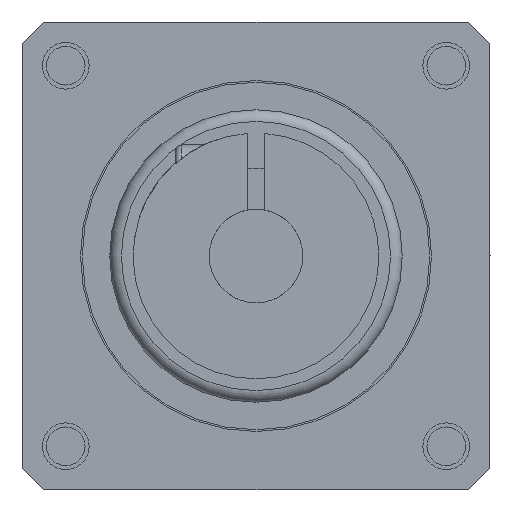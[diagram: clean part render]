
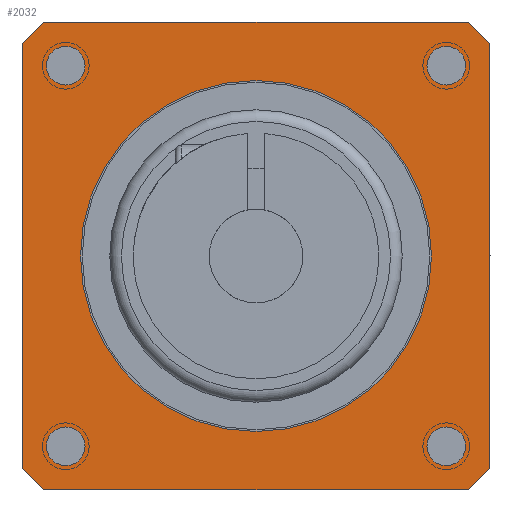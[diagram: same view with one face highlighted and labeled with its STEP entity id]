
A CAD part, left-side view. The second image highlights one B-rep face of the part: STEP entity #2032.
In plain terms, the highlighted planar face has unit normal (-1, 0, 0).
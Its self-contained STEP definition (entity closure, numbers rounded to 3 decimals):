
#185=LINE('',#3430,#346);
#188=LINE('',#3438,#349);
#191=LINE('',#3448,#352);
#194=LINE('',#3455,#355);
#346=VECTOR('',#2606,36.277);
#349=VECTOR('',#2615,36.277);
#352=VECTOR('',#2626,36.277);
#355=VECTOR('',#2635,36.277);
#442=FACE_BOUND('',#662,.T.);
#443=FACE_BOUND('',#663,.T.);
#444=FACE_BOUND('',#664,.T.);
#445=FACE_BOUND('',#665,.T.);
#446=FACE_BOUND('',#666,.T.);
#514=FACE_OUTER_BOUND('',#661,.T.);
#661=EDGE_LOOP('',(#1556,#1557,#1558,#1559,#1560,#1561,#1562,#1563));
#662=EDGE_LOOP('',(#1564));
#663=EDGE_LOOP('',(#1565));
#664=EDGE_LOOP('',(#1566));
#665=EDGE_LOOP('',(#1567));
#666=EDGE_LOOP('',(#1568));
#770=CIRCLE('',#2205,27.);
#771=CIRCLE('',#2208,27.);
#773=CIRCLE('',#2212,27.);
#774=CIRCLE('',#2215,27.);
#775=CIRCLE('',#2218,15.);
#776=CIRCLE('',#2219,1.65);
#777=CIRCLE('',#2220,1.65);
#778=CIRCLE('',#2221,1.65);
#779=CIRCLE('',#2222,1.65);
#926=VERTEX_POINT('',#3423);
#927=VERTEX_POINT('',#3425);
#928=VERTEX_POINT('',#3429);
#929=VERTEX_POINT('',#3433);
#930=VERTEX_POINT('',#3437);
#932=VERTEX_POINT('',#3443);
#933=VERTEX_POINT('',#3447);
#934=VERTEX_POINT('',#3451);
#935=VERTEX_POINT('',#3457);
#936=VERTEX_POINT('',#3459);
#937=VERTEX_POINT('',#3461);
#938=VERTEX_POINT('',#3463);
#939=VERTEX_POINT('',#3465);
#1143=EDGE_CURVE('',#927,#926,#770,.T.);
#1145=EDGE_CURVE('',#928,#927,#185,.T.);
#1147=EDGE_CURVE('',#929,#928,#771,.T.);
#1149=EDGE_CURVE('',#930,#929,#188,.T.);
#1152=EDGE_CURVE('',#932,#930,#773,.T.);
#1154=EDGE_CURVE('',#933,#932,#191,.T.);
#1156=EDGE_CURVE('',#934,#933,#774,.T.);
#1158=EDGE_CURVE('',#926,#934,#194,.T.);
#1159=EDGE_CURVE('',#935,#935,#775,.T.);
#1160=EDGE_CURVE('',#936,#936,#776,.T.);
#1161=EDGE_CURVE('',#937,#937,#777,.T.);
#1162=EDGE_CURVE('',#938,#938,#778,.T.);
#1163=EDGE_CURVE('',#939,#939,#779,.T.);
#1556=ORIENTED_EDGE('',*,*,#1143,.T.);
#1557=ORIENTED_EDGE('',*,*,#1158,.T.);
#1558=ORIENTED_EDGE('',*,*,#1156,.T.);
#1559=ORIENTED_EDGE('',*,*,#1154,.T.);
#1560=ORIENTED_EDGE('',*,*,#1152,.T.);
#1561=ORIENTED_EDGE('',*,*,#1149,.T.);
#1562=ORIENTED_EDGE('',*,*,#1147,.T.);
#1563=ORIENTED_EDGE('',*,*,#1145,.T.);
#1564=ORIENTED_EDGE('',*,*,#1159,.T.);
#1565=ORIENTED_EDGE('',*,*,#1160,.F.);
#1566=ORIENTED_EDGE('',*,*,#1161,.F.);
#1567=ORIENTED_EDGE('',*,*,#1162,.F.);
#1568=ORIENTED_EDGE('',*,*,#1163,.F.);
#1856=PLANE('',#2217);
#2032=ADVANCED_FACE('',(#514,#442,#443,#444,#445,#446),#1856,.T.);
#2205=AXIS2_PLACEMENT_3D('',#3426,#2601,#2602);
#2208=AXIS2_PLACEMENT_3D('',#3434,#2610,#2611);
#2212=AXIS2_PLACEMENT_3D('',#3444,#2621,#2622);
#2215=AXIS2_PLACEMENT_3D('',#3452,#2630,#2631);
#2217=AXIS2_PLACEMENT_3D('',#3456,#2636,#2637);
#2218=AXIS2_PLACEMENT_3D('',#3458,#2638,#2639);
#2219=AXIS2_PLACEMENT_3D('',#3460,#2640,#2641);
#2220=AXIS2_PLACEMENT_3D('',#3462,#2642,#2643);
#2221=AXIS2_PLACEMENT_3D('',#3464,#2644,#2645);
#2222=AXIS2_PLACEMENT_3D('',#3466,#2646,#2647);
#2601=DIRECTION('center_axis',(-1.,0.,0.));
#2602=DIRECTION('ref_axis',(0.,-0.672,-0.741));
#2606=DIRECTION('',(0.,-1.,0.));
#2610=DIRECTION('center_axis',(-1.,0.,0.));
#2611=DIRECTION('ref_axis',(0.,0.741,-0.672));
#2615=DIRECTION('',(0.,0.,-1.));
#2621=DIRECTION('center_axis',(-1.,0.,0.));
#2622=DIRECTION('ref_axis',(0.,0.672,0.741));
#2626=DIRECTION('',(0.,1.,0.));
#2630=DIRECTION('center_axis',(-1.,0.,0.));
#2631=DIRECTION('ref_axis',(0.,-0.741,0.672));
#2635=DIRECTION('',(0.,0.,1.));
#2636=DIRECTION('center_axis',(-1.,0.,0.));
#2637=DIRECTION('ref_axis',(0.,1.,0.));
#2638=DIRECTION('center_axis',(1.,0.,0.));
#2639=DIRECTION('ref_axis',(0.,0.,-1.));
#2640=DIRECTION('center_axis',(-1.,0.,0.));
#2641=DIRECTION('ref_axis',(0.,1.,0.));
#2642=DIRECTION('center_axis',(-1.,0.,0.));
#2643=DIRECTION('ref_axis',(0.,1.,0.));
#2644=DIRECTION('center_axis',(-1.,0.,0.));
#2645=DIRECTION('ref_axis',(0.,1.,0.));
#2646=DIRECTION('center_axis',(-1.,0.,0.));
#2647=DIRECTION('ref_axis',(0.,1.,0.));
#3423=CARTESIAN_POINT('',(-106.5,-20.,-18.138));
#3425=CARTESIAN_POINT('',(-106.5,-18.138,-20.));
#3426=CARTESIAN_POINT('Origin',(-106.5,0.,0.));
#3429=CARTESIAN_POINT('',(-106.5,18.138,-20.));
#3430=CARTESIAN_POINT('',(-106.5,18.138,-20.));
#3433=CARTESIAN_POINT('',(-106.5,20.,-18.138));
#3434=CARTESIAN_POINT('Origin',(-106.5,0.,0.));
#3437=CARTESIAN_POINT('',(-106.5,20.,18.138));
#3438=CARTESIAN_POINT('',(-106.5,20.,18.138));
#3443=CARTESIAN_POINT('',(-106.5,18.138,20.));
#3444=CARTESIAN_POINT('Origin',(-106.5,0.,0.));
#3447=CARTESIAN_POINT('',(-106.5,-18.138,20.));
#3448=CARTESIAN_POINT('',(-106.5,-18.138,20.));
#3451=CARTESIAN_POINT('',(-106.5,-20.,18.138));
#3452=CARTESIAN_POINT('Origin',(-106.5,0.,0.));
#3455=CARTESIAN_POINT('',(-106.5,-20.,-18.138));
#3456=CARTESIAN_POINT('Origin',(-106.5,0.,0.));
#3457=CARTESIAN_POINT('',(-106.5,0.,-15.));
#3458=CARTESIAN_POINT('Origin',(-106.5,0.,0.));
#3459=CARTESIAN_POINT('',(-106.5,-17.913,-16.263));
#3460=CARTESIAN_POINT('Origin',(-106.5,-16.263,-16.263));
#3461=CARTESIAN_POINT('',(-106.5,14.613,-16.263));
#3462=CARTESIAN_POINT('Origin',(-106.5,16.263,-16.263));
#3463=CARTESIAN_POINT('',(-106.5,14.613,16.263));
#3464=CARTESIAN_POINT('Origin',(-106.5,16.263,16.263));
#3465=CARTESIAN_POINT('',(-106.5,-17.913,16.263));
#3466=CARTESIAN_POINT('Origin',(-106.5,-16.263,16.263));
